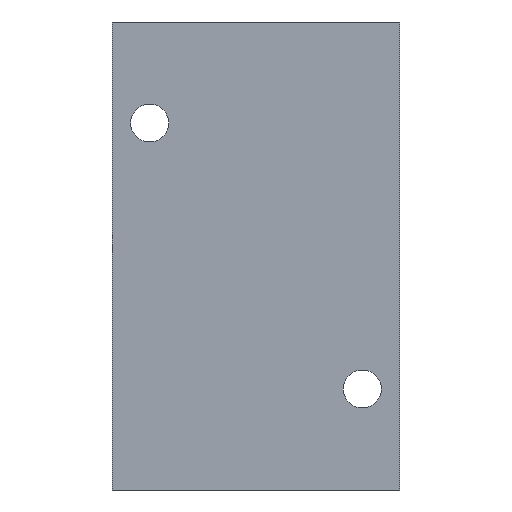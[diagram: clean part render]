
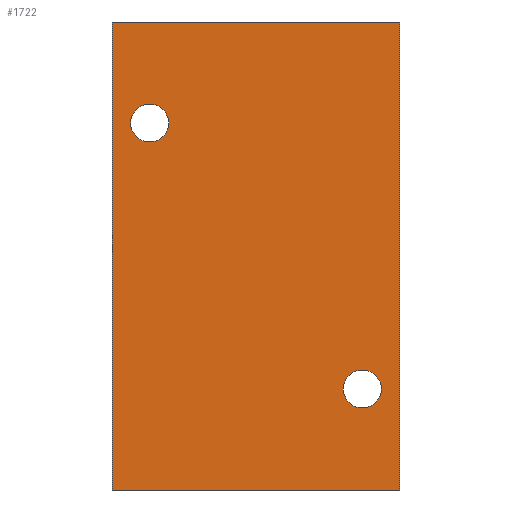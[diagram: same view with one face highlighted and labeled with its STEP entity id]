
A CAD part, front view. The second image highlights one B-rep face of the part: STEP entity #1722.
In plain terms, the highlighted planar face has unit normal (0, -1, 0).
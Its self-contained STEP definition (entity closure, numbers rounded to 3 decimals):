
#17 = AXIS2_PLACEMENT_3D ( 'NONE', #747, #1303, #597 ) ;
#147 = FACE_BOUND ( 'NONE', #1492, .T. ) ;
#175 = DIRECTION ( 'NONE',  ( 1., 0., 0. ) ) ;
#202 = VECTOR ( 'NONE', #175, 1000. ) ;
#207 = ORIENTED_EDGE ( 'NONE', *, *, #1073, .T. ) ;
#254 = EDGE_LOOP ( 'NONE', ( #207, #1369, #390, #313 ) ) ;
#273 = CARTESIAN_POINT ( 'NONE',  ( 40., -38.5, -42.875 ) ) ;
#287 = VERTEX_POINT ( 'NONE', #930 ) ;
#313 = ORIENTED_EDGE ( 'NONE', *, *, #1355, .T. ) ;
#335 = CARTESIAN_POINT ( 'NONE',  ( 54., -38.5, -88. ) ) ;
#348 = CARTESIAN_POINT ( 'NONE',  ( -54., -38.5, 88. ) ) ;
#381 = AXIS2_PLACEMENT_3D ( 'NONE', #649, #920, #1373 ) ;
#390 = ORIENTED_EDGE ( 'NONE', *, *, #857, .F. ) ;
#400 = VERTEX_POINT ( 'NONE', #273 ) ;
#401 = CARTESIAN_POINT ( 'NONE',  ( 54., -38.5, 88. ) ) ;
#416 = CARTESIAN_POINT ( 'NONE',  ( -54., -38.5, 88. ) ) ;
#421 = CARTESIAN_POINT ( 'NONE',  ( -54., -38.5, -88. ) ) ;
#443 = CIRCLE ( 'NONE', #381, 7.125 ) ;
#446 = VERTEX_POINT ( 'NONE', #1571 ) ;
#449 = AXIS2_PLACEMENT_3D ( 'NONE', #1583, #1687, #970 ) ;
#456 = CARTESIAN_POINT ( 'NONE',  ( -40., -38.5, 42.875 ) ) ;
#497 = EDGE_CURVE ( 'NONE', #400, #287, #654, .T. ) ;
#529 = AXIS2_PLACEMENT_3D ( 'NONE', #966, #1420, #1565 ) ;
#543 = EDGE_CURVE ( 'NONE', #972, #446, #1361, .T. ) ;
#597 = DIRECTION ( 'NONE',  ( 0., 0., -1. ) ) ;
#622 = AXIS2_PLACEMENT_3D ( 'NONE', #1287, #1387, #1681 ) ;
#646 = VECTOR ( 'NONE', #1785, 1000. ) ;
#649 = CARTESIAN_POINT ( 'NONE',  ( -40., -38.5, 50. ) ) ;
#654 = CIRCLE ( 'NONE', #449, 7.125 ) ;
#661 = EDGE_LOOP ( 'NONE', ( #1505, #1255 ) ) ;
#688 = EDGE_CURVE ( 'NONE', #446, #972, #443, .T. ) ;
#699 = DIRECTION ( 'NONE',  ( 1., 0., 0. ) ) ;
#714 = FACE_BOUND ( 'NONE', #661, .T. ) ;
#747 = CARTESIAN_POINT ( 'NONE',  ( -40., -38.5, 50. ) ) ;
#823 = CARTESIAN_POINT ( 'NONE',  ( -54., -38.5, 88. ) ) ;
#857 = EDGE_CURVE ( 'NONE', #921, #994, #1424, .T. ) ;
#903 = DIRECTION ( 'NONE',  ( 0., 0., -1. ) ) ;
#911 = VERTEX_POINT ( 'NONE', #1559 ) ;
#920 = DIRECTION ( 'NONE',  ( 0., -1., 0. ) ) ;
#921 = VERTEX_POINT ( 'NONE', #416 ) ;
#926 = CIRCLE ( 'NONE', #529, 7.125 ) ;
#930 = CARTESIAN_POINT ( 'NONE',  ( 40., -38.5, -57.125 ) ) ;
#966 = CARTESIAN_POINT ( 'NONE',  ( 40., -38.5, -50. ) ) ;
#970 = DIRECTION ( 'NONE',  ( 0., 0., -1. ) ) ;
#972 = VERTEX_POINT ( 'NONE', #456 ) ;
#994 = VERTEX_POINT ( 'NONE', #401 ) ;
#1065 = CARTESIAN_POINT ( 'NONE',  ( 54., -38.5, 88. ) ) ;
#1073 = EDGE_CURVE ( 'NONE', #911, #1089, #1832, .T. ) ;
#1089 = VERTEX_POINT ( 'NONE', #335 ) ;
#1255 = ORIENTED_EDGE ( 'NONE', *, *, #497, .F. ) ;
#1279 = FACE_OUTER_BOUND ( 'NONE', #254, .T. ) ;
#1287 = CARTESIAN_POINT ( 'NONE',  ( -54., -38.5, 88. ) ) ;
#1294 = VECTOR ( 'NONE', #699, 1000. ) ;
#1303 = DIRECTION ( 'NONE',  ( 0., -1., 0. ) ) ;
#1355 = EDGE_CURVE ( 'NONE', #921, #911, #1734, .T. ) ;
#1357 = LINE ( 'NONE', #1065, #646 ) ;
#1361 = CIRCLE ( 'NONE', #17, 7.125 ) ;
#1369 = ORIENTED_EDGE ( 'NONE', *, *, #1401, .F. ) ;
#1373 = DIRECTION ( 'NONE',  ( 0., 0., -1. ) ) ;
#1387 = DIRECTION ( 'NONE',  ( 0., 1., 0. ) ) ;
#1397 = PLANE ( 'NONE',  #622 ) ;
#1401 = EDGE_CURVE ( 'NONE', #994, #1089, #1357, .T. ) ;
#1420 = DIRECTION ( 'NONE',  ( 0., -1., 0. ) ) ;
#1422 = ORIENTED_EDGE ( 'NONE', *, *, #688, .F. ) ;
#1424 = LINE ( 'NONE', #823, #1294 ) ;
#1492 = EDGE_LOOP ( 'NONE', ( #1730, #1422 ) ) ;
#1505 = ORIENTED_EDGE ( 'NONE', *, *, #1577, .F. ) ;
#1506 = VECTOR ( 'NONE', #903, 1000. ) ;
#1559 = CARTESIAN_POINT ( 'NONE',  ( -54., -38.5, -88. ) ) ;
#1565 = DIRECTION ( 'NONE',  ( 0., 0., -1. ) ) ;
#1571 = CARTESIAN_POINT ( 'NONE',  ( -40., -38.5, 57.125 ) ) ;
#1577 = EDGE_CURVE ( 'NONE', #287, #400, #926, .T. ) ;
#1583 = CARTESIAN_POINT ( 'NONE',  ( 40., -38.5, -50. ) ) ;
#1681 = DIRECTION ( 'NONE',  ( 0., 0., 1. ) ) ;
#1687 = DIRECTION ( 'NONE',  ( 0., -1., 0. ) ) ;
#1722 = ADVANCED_FACE ( 'NONE', ( #714, #147, #1279 ), #1397, .F. ) ;
#1730 = ORIENTED_EDGE ( 'NONE', *, *, #543, .F. ) ;
#1734 = LINE ( 'NONE', #348, #1506 ) ;
#1785 = DIRECTION ( 'NONE',  ( 0., 0., -1. ) ) ;
#1832 = LINE ( 'NONE', #421, #202 ) ;
